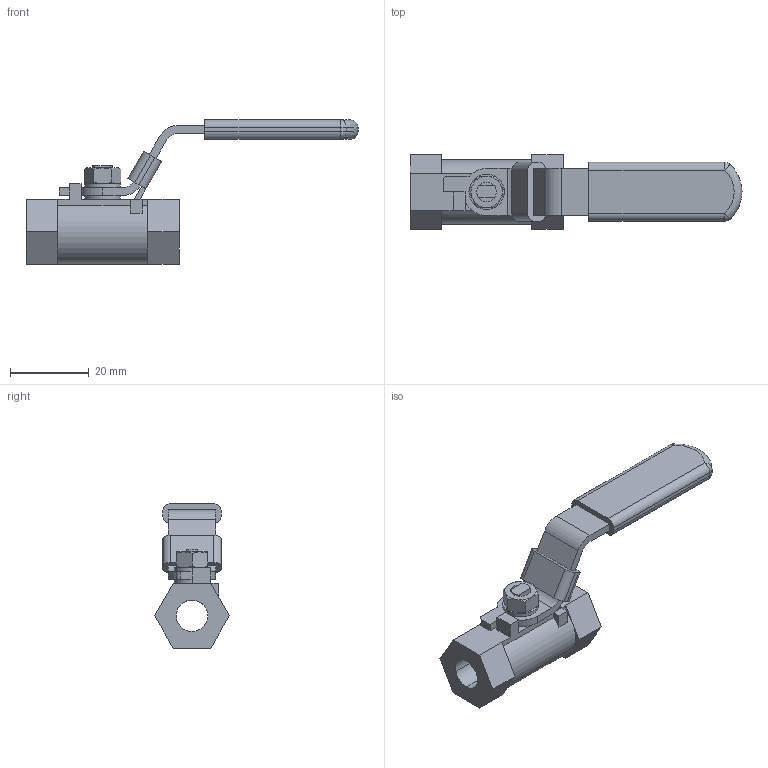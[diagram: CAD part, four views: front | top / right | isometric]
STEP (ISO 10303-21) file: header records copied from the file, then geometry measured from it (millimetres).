
FILE_DESCRIPTION( (''), '2;1');
FILE_NAME ('PC1276.13404.BLV-1S 8A_17263.stp','2025-09-19T13:27:54',(''),(''),'spGate 20.6.3 (****-****-****-****)','','');
FILE_SCHEMA (('AUTOMOTIVE_DESIGN'));
Length unit declared in the file: millimetre
Products named in the file (5): Assembly; CP_''_JIS B 1256 小形-部品等級A 5''_17239; CP_''_JIS B 1181 六角ナット 2種 上 ''_700; BLV-1S 8A ハンドル; BLV-1 8A 本体
Assembly tree (5 placements, depth 2):
  Assembly
    CP_''_JIS B 1256 小形-部品等級A 5''_17239  x2
    CP_''_JIS B 1181 六角ナット 2種 上 ''_700
    BLV-1S 8A ハンドル
    BLV-1 8A 本体
Bounding box: 84.5 x 19.05 x 36.75 mm (x, y, z)
Volume: 11263.1 mm3; surface area: 7256.1 mm2
Topology: 5 solids, 5 shells, 141 faces, 356 edges, 222 vertices
Faces by surface type: plane 86, cylinder 37, bspline 14, sphere 4
Entity records: 7062 total; most frequent: CARTESIAN_POINT 966, ORIENTED_EDGE 680, DIRECTION 670, COLOUR_RGB 479, PRESENTATION_STYLE_ASSIGNMENT 479, STYLED_ITEM 479, EDGE_CURVE 340, DRAUGHTING_PRE_DEFINED_CURVE_FONT 340
